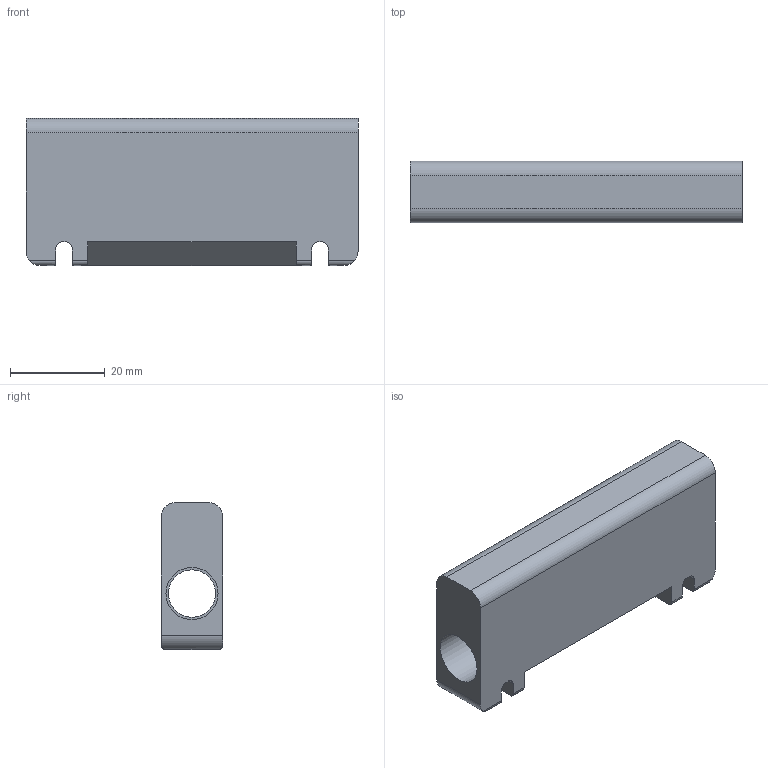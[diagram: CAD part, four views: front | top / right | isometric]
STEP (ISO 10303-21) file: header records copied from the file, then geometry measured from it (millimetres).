
FILE_DESCRIPTION(/* description */ ('Basebody Spatula'),/* implementation_level */ '2;1');
FILE_NAME(/* name */ 'Z:\Werkstatt Server\Projekte\Atlas\Entwicklung u. Konstruktion\Konstruktion\CAD Daten\ITkPixToolV2.0\Stencil Tool\Spatula\ITPTv2.03.01.01.stp',/* time_stamp */ '2021-08-06T14:07:32+02:00',/* author */ ('Tim Kanngießer'),/* organization */ (''),/* preprocessor_version */ 'ST-DEVELOPER v18.1',/* originating_system */ 'Autodesk Inventor 2022',/* authorisation */ '');
FILE_SCHEMA (('AUTOMOTIVE_DESIGN { 1 0 10303 214 3 1 1 }'));
Length unit declared in the file: millimetre
Products named in the file (1): ITPTv2.03.01.01
Bounding box: 70 x 13 x 31 mm (x, y, z)
Volume: 20535.6 mm3; surface area: 8843.9 mm2
Topology: 1 solids, 1 shells, 41 faces, 111 edges, 74 vertices
Faces by surface type: plane 23, cylinder 18
Full cylindrical faces by diameter (mm): 10 x1, 11 x2
Entity records: 1370 total; most frequent: CARTESIAN_POINT 255, DIRECTION 231, ORIENTED_EDGE 222, EDGE_CURVE 111, AXIS2_PLACEMENT_3D 82, VERTEX_POINT 74, LINE 67, VECTOR 67
